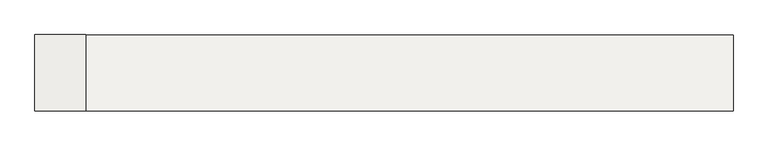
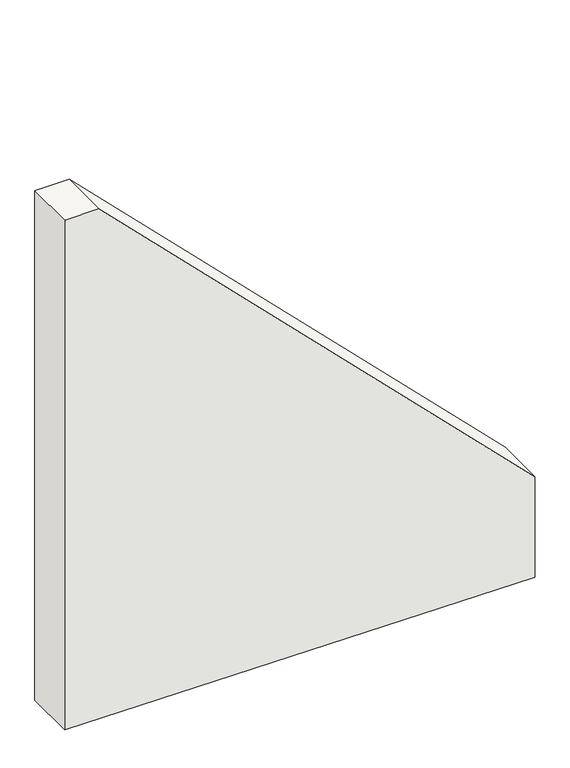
"""IFC4 building model written with IfcOpenShell, lengths in millimetres: slab geometry, Mur Sud Aval : Mur Sud Aval."""

from ifc_helpers import new_model, si_unit, frame, origin, place, context, project, spatial, polyline, outline, extrude, source, transform, mapped, element, save


def slab_a04cbf1a(model_context):
    return source(origin(), model_context, "Body", "SweptSolid", [
        extrude(outline(polyline([(153584.5987709, 29630.0), (154205.8454785, 29630.0), (156755.8454785, 27080.0), (156755.8454785, 26880.0), (153605.8454785, 26880.0), (153584.5987709, 29630.0)])), frame((0.0, -1800.0, 0.0), z_axis=(0.0, 1.0, 0.0), x_axis=(0.0, 0.0, 1.0)), (0.0, 0.0, 1.0), 300.0),
    ])


if __name__ == "__main__":
    model = new_model("IFC4")
    model_context = context("Model", 3, world=origin())
    ifc_project = project(units=[si_unit("LENGTHUNIT", "METRE", prefix="MILLI")], contexts=[model_context])
    site = spatial("IfcSite", under=ifc_project)
    building = spatial("IfcBuilding", under=site)
    placement = place(None, origin())
    slab_shape = slab_a04cbf1a(model_context)
    element("IfcSlab", 1, ObjectType="Mur Sud Aval : Mur Sud Aval", at=placement, inside=building, context=model_context, shape_type="MappedRepresentation", body=[
        mapped(slab_shape, transform((0.0, 0.0, 0.0), x_axis=(1.0, 0.0, 0.0), y_axis=(0.0, 1.0, 0.0), z_axis=(0.0, 0.0, 1.0))),
    ])
    save(model, "model.ifc")
